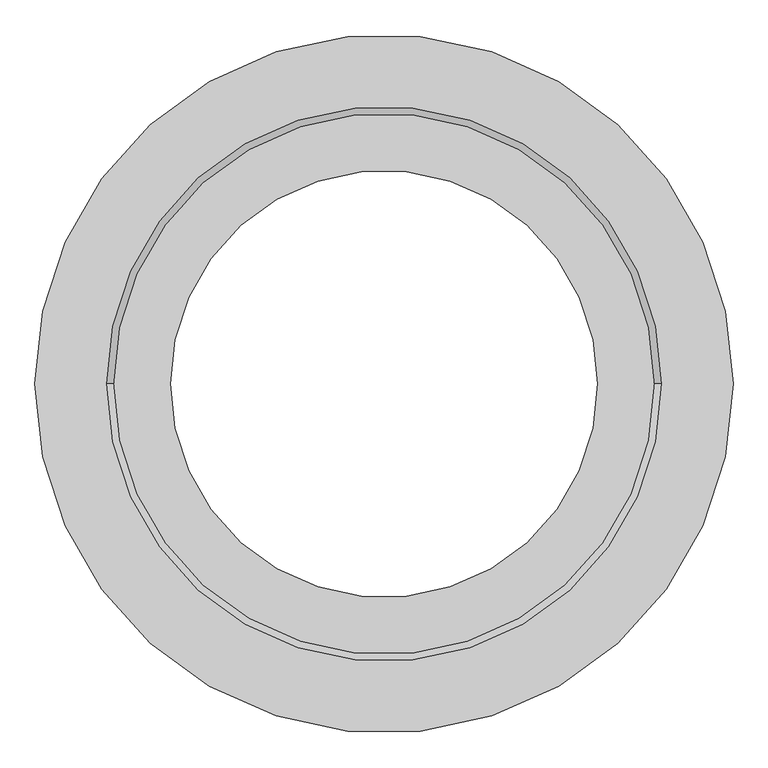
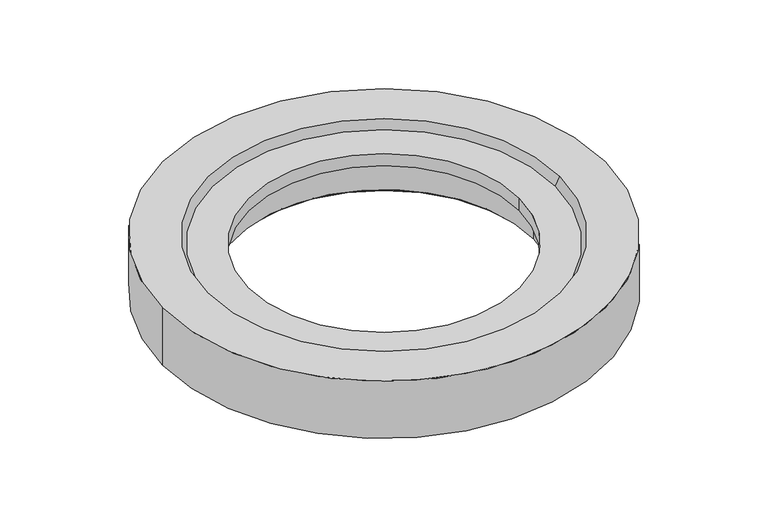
"""IFC4 building model written with IfcOpenShell, lengths in millimetres: proxy geometry, RSK C3 Chamber Support Ring : RSK C3 C.SR."""

from ifc_helpers import new_model, si_unit, frame, origin, origin_with_axes, place, context, project, spatial, polyline, circle_curve, source, transform, mapped, element, save
from ifc_brep_helpers import plane_surface, cylinder_surface, revolved_surface, advanced_brep


def generic_models_9df56208(model_context):
    return source(origin(), model_context, "Body", "AdvancedBrep", [
        advanced_brep(
        [(397.5, 0.0, -20.0), (-397.5, 0.0, -20.0), (-407.5, 0.0, 0.0), (407.5, 0.0, 0.0), (313.5, 0.0, -50.0), (-313.5, 0.0, -50.0), (-313.5, 0.0, -20.0), (313.5, 0.0, -20.0), (347.5, 0.0, -70.0), (-347.5, 0.0, -70.0), (347.5, 0.0, -132.0), (-347.5, 0.0, -132.0), (355.5, 0.0, -140.0), (-355.5, 0.0, -140.0), (513.0, 0.0, 0.0), (-513.0, 0.0, 0.0), (-513.0, 0.0, -140.0), (513.0, 0.0, -140.0)],
        [
            (0, 1, circle_curve(frame((0.0, 0.0, -20.0), z_axis=(0.0, 0.0, -1.0), x_axis=(-1.0, 0.0, 0.0)), 397.5)),
            (1, 2),
            (2, 3, circle_curve(frame((0.0, 0.0, 0.0), z_axis=(0.0, 0.0, 1.0), x_axis=(-1.0, 0.0, 0.0)), 407.5)),
            (3, 0),
            (4, 5, circle_curve(frame((0.0, 0.0, -50.0), z_axis=(0.0, 0.0, -1.0), x_axis=(-1.0, 0.0, 0.0)), 313.5)),
            (5, 6),
            (6, 7, circle_curve(frame((0.0, 0.0, -20.0), z_axis=(0.0, 0.0, 1.0), x_axis=(-1.0, 0.0, 0.0)), 313.5)),
            (7, 4),
            (8, 9, circle_curve(frame((0.0, 0.0, -70.0), z_axis=(0.0, 0.0, -1.0), x_axis=(-1.0, 0.0, 0.0)), 347.5)),
            (9, 5),
            (4, 8),
            (10, 11, circle_curve(frame((0.0, 0.0, -132.0), z_axis=(0.0, 0.0, -1.0), x_axis=(-1.0, 0.0, 0.0)), 347.5)),
            (11, 9),
            (8, 10),
            (12, 13, circle_curve(frame((0.0, 0.0, -140.0), z_axis=(0.0, 0.0, -1.0), x_axis=(-1.0, 0.0, 0.0)), 355.5)),
            (13, 11),
            (10, 12),
            (14, 15, circle_curve(frame((0.0, 0.0, 0.0), z_axis=(0.0, 0.0, -1.0), x_axis=(-1.0, 0.0, 0.0)), 513.0)),
            (15, 16),
            (16, 17, circle_curve(frame((0.0, 0.0, -140.0), z_axis=(0.0, 0.0, 1.0), x_axis=(-1.0, 0.0, 0.0)), 513.0)),
            (17, 14),
            (1, 0, circle_curve(frame((0.0, 0.0, -20.0), z_axis=(0.0, 0.0, -1.0), x_axis=(1.0, 0.0, 0.0)), 397.5)),
            (3, 2, circle_curve(origin_with_axes(), 407.5)),
            (6, 7, circle_curve(frame((0.0, 0.0, -20.0), z_axis=(0.0, 0.0, -1.0), x_axis=(1.0, 0.0, 0.0)), 313.5)),
            (5, 4, circle_curve(frame((0.0, 0.0, -50.0), z_axis=(0.0, 0.0, -1.0), x_axis=(1.0, 0.0, 0.0)), 313.5)),
            (9, 8, circle_curve(frame((0.0, 0.0, -70.0), z_axis=(0.0, 0.0, -1.0), x_axis=(1.0, 0.0, 0.0)), 347.5)),
            (11, 10, circle_curve(frame((0.0, 0.0, -132.0), z_axis=(0.0, 0.0, -1.0), x_axis=(1.0, 0.0, 0.0)), 347.5)),
            (13, 12, circle_curve(frame((0.0, 0.0, -140.0), z_axis=(0.0, 0.0, -1.0), x_axis=(1.0, 0.0, 0.0)), 355.5)),
            (16, 17, circle_curve(frame((0.0, 0.0, -140.0), z_axis=(0.0, 0.0, -1.0), x_axis=(1.0, 0.0, 0.0)), 513.0)),
            (15, 14, circle_curve(frame((0.0, 0.0, 0.0), z_axis=(0.0, 0.0, -1.0), x_axis=(1.0, 0.0, 0.0)), 513.0)),
        ],
        [
            revolved_surface(polyline([(-407.5, 0.0, 0.0), (-397.5, 0.0, -20.0)]), (0.0, 0.0, 0.0), (0.0, 0.0, 1.0)),
            revolved_surface(polyline([(-313.5, 0.0, -20.0), (-313.5, 0.0, -50.0)]), (0.0, 0.0, 0.0), (0.0, 0.0, 1.0)),
            revolved_surface(polyline([(-313.5, 0.0, -50.0), (-347.5, 0.0, -70.0)]), (0.0, 0.0, 0.0), (0.0, 0.0, 1.0)),
            revolved_surface(polyline([(-347.5, 0.0, -70.0), (-347.5, 0.0, -132.0)]), (0.0, 0.0, 0.0), (0.0, 0.0, 1.0)),
            revolved_surface(polyline([(-347.5, 0.0, -132.0), (-355.5, 0.0, -140.0)]), (0.0, 0.0, 0.0), (0.0, 0.0, 1.0)),
            cylinder_surface(frame((0.0, 0.0, 0.0), z_axis=(0.0, 0.0, 1.0), x_axis=(-1.0, 0.0, 0.0)), 513.0),
            revolved_surface(polyline([(407.5, 0.0, 0.0), (397.5, 0.0, -20.0)]), (0.0, 0.0, 0.0), (0.0, 0.0, 1.0)),
            plane_surface(frame((0.0, 0.0, -20.0), z_axis=(0.0, 0.0, 1.0), x_axis=(1.0, 0.0, 0.0))),
            revolved_surface(polyline([(313.5, 0.0, -20.0), (313.5, 0.0, -50.0)]), (0.0, 0.0, 0.0), (0.0, 0.0, 1.0)),
            revolved_surface(polyline([(313.5, 0.0, -50.0), (347.5, 0.0, -70.0)]), (0.0, 0.0, 0.0), (0.0, 0.0, 1.0)),
            revolved_surface(polyline([(347.5, 0.0, -70.0), (347.5, 0.0, -132.0)]), (0.0, 0.0, 0.0), (0.0, 0.0, 1.0)),
            revolved_surface(polyline([(347.5, 0.0, -132.0), (355.5, 0.0, -140.0)]), (0.0, 0.0, 0.0), (0.0, 0.0, 1.0)),
            plane_surface(frame((0.0, 0.0, -140.0), z_axis=(0.0, 0.0, -1.0), x_axis=(1.0, 0.0, 0.0))),
            cylinder_surface(origin_with_axes(), 513.0),
            plane_surface(origin_with_axes()),
        ],
        [
            (0, [[1, 2, 3, 4]]),
            (1, [[5, 6, 7, 8]]),
            (2, [[9, 10, -5, 11]]),
            (3, [[12, 13, -9, 14]]),
            (4, [[15, 16, -12, 17]]),
            (5, [[18, 19, 20, 21]]),
            (6, [[22, -4, 23, -2]]),
            (7, [[-22, -1], [24, -7]]),
            (8, [[25, -8, -24, -6]]),
            (9, [[26, -11, -25, -10]]),
            (10, [[27, -14, -26, -13]]),
            (11, [[28, -17, -27, -16]]),
            (12, [[29, -20], [-28, -15]]),
            (13, [[30, -21, -29, -19]]),
            (14, [[-30, -18], [-23, -3]]),
        ],
    ),
    ])


if __name__ == "__main__":
    model = new_model("IFC4")
    model_context = context("Model", 3, world=origin())
    ifc_project = project(units=[si_unit("LENGTHUNIT", "METRE", prefix="MILLI")], contexts=[model_context])
    site = spatial("IfcSite", under=ifc_project)
    building = spatial("IfcBuilding", under=site)
    placement = place(None, origin())
    generic_models_shape = generic_models_9df56208(model_context)
    element("IfcBuildingElementProxy", 1, Name="RSK C3 Chamber Support Ring : RSK C3 C.SR", ObjectType="RSK C3 Chamber Support Ring : RSK C3 C.SR", at=placement, inside=building, context=model_context, shape_type="MappedRepresentation", body=[
        mapped(generic_models_shape, transform((0.0, 0.0, 0.0), x_axis=(1.0, 0.0, 0.0), y_axis=(0.0, 1.0, 0.0), z_axis=(0.0, 0.0, 1.0))),
    ])
    save(model, "model.ifc")
